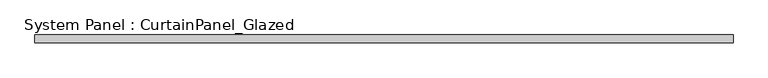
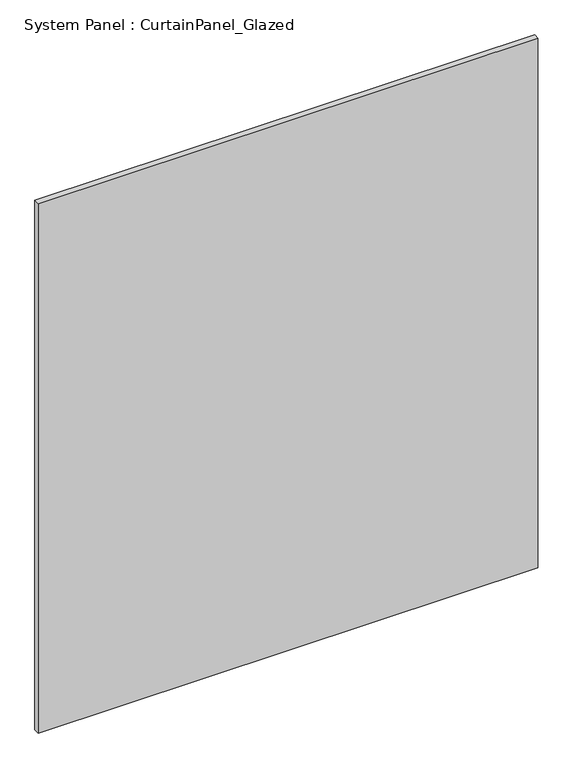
"""IFC4 building model written with IfcOpenShell, lengths in millimetres: plate geometry, System Panel : CurtainPanel_Glazed."""

from ifc_helpers import new_model, si_unit, origin, origin_with_axes, place, context, project, spatial, polyline, outline, extrude, source, transform, mapped, element, save


def system_panel_curtainpanel_glazed_c6a84083(model_context):
    return source(origin(), model_context, "Body", "SweptSolid", [
        extrude(outline(polyline([(1138.6000001, -12.5), (-1138.6000001, -12.5), (-1138.6000001, 12.5), (1138.6000001, 12.5), (1138.6000001, -12.5)])), origin_with_axes(), (0.0, 0.0, 1.0), 2550.0),
    ])


if __name__ == "__main__":
    model = new_model("IFC4")
    model_context = context("Model", 3, world=origin())
    ifc_project = project(units=[si_unit("LENGTHUNIT", "METRE", prefix="MILLI")], contexts=[model_context])
    site = spatial("IfcSite", under=ifc_project)
    building = spatial("IfcBuilding", under=site)
    placement = place(None, origin())
    system_panel_curtainpanel_glazed_shape = system_panel_curtainpanel_glazed_c6a84083(model_context)
    element("IfcPlate", 1, ObjectType="System Panel : CurtainPanel_Glazed", at=placement, inside=building, context=model_context, shape_type="MappedRepresentation", body=[
        mapped(system_panel_curtainpanel_glazed_shape, transform((0.0, 0.0, 0.0), x_axis=(1.0, 0.0, 0.0), y_axis=(0.0, 1.0, 0.0), z_axis=(0.0, 0.0, 1.0))),
    ])
    save(model, "model.ifc")
